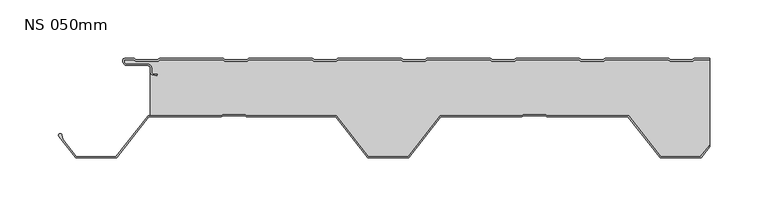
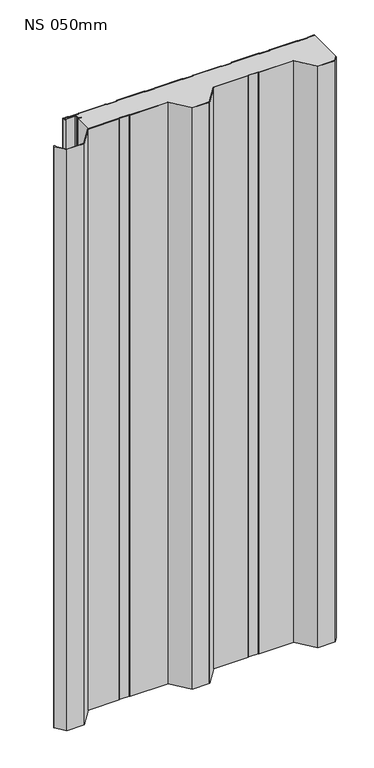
"""IFC4 building model written with IfcOpenShell, lengths in millimetres: plate geometry, KIP-MEX-KC-R19-CP-NS-SL : NS 050mm."""

import ifcopenshell
import ifcopenshell.guid

model = None  # the IFC model being written
_history = None  # IfcOwnerHistory: only IFC2X3 demands one
_inside = {}  # id of a spatial element -> (the spatial element, [elements in it])
_under = {}  # id of a project, library or spatial element -> (it, [spatial elements below it])
_declared = {}  # id of a project -> (the project, [libraries it declares])
_typed = {}  # id of a type object -> (the type object, [elements of that type])
_made_of = {}  # id of a material, layer set ... -> (it, [elements and type objects made of it])


def new_model(schema):
    """Start an empty IFC model of exactly this schema.

    Asked for "IFC4X3", IfcOpenShell would pick the latest addendum, in which some entities
    have other attributes; the version numbers below select the first issue.
    IFC2X3 requires an IfcOwnerHistory on every rooted entity: one is made here for all.
    """
    global model, _history
    if schema == "IFC4X3":
        model = ifcopenshell.file(schema_version=(4, 3, 0, 0))
    else:
        model = ifcopenshell.file(schema=schema)
    _inside.clear()
    _under.clear()
    _declared.clear()
    _typed.clear()
    _made_of.clear()
    _history = None
    if model.schema == "IFC2X3":
        org = make("IfcOrganization", Name="unknown")
        user = make(
            "IfcPersonAndOrganization",
            ThePerson=make("IfcPerson", FamilyName="unknown"),
            TheOrganization=org,
        )
        app = make(
            "IfcApplication",
            ApplicationDeveloper=org,
            Version="unknown",
            ApplicationFullName="unknown",
            ApplicationIdentifier="unknown",
        )
        _history = make(
            "IfcOwnerHistory",
            OwningUser=user,
            OwningApplication=app,
            ChangeAction="ADDED",
            CreationDate=0,
        )
    return model


def make(cls, **values):
    """One entity of the class cls with the attributes given. An attribute that is None is left unset."""
    return model.create_entity(
        cls, **{name: value for name, value in values.items() if value is not None}
    )


def rooted(cls, **values):
    """An entity with a GlobalId (a new one), such as an element, a storey or a relation."""
    return make(cls, GlobalId=ifcopenshell.guid.new(), OwnerHistory=_history, **values)


def si_unit(unit_type, name, prefix=None):
    """IfcSIUnit, for example si_unit("LENGTHUNIT", "METRE", prefix="MILLI")."""
    return make("IfcSIUnit", UnitType=unit_type, Prefix=prefix, Name=name)


def assignment(units):
    """IfcUnitAssignment: the units of a project."""
    return None if units is None else make("IfcUnitAssignment", Units=units)


def point(xyz):
    """IfcCartesianPoint."""
    return None if xyz is None else make("IfcCartesianPoint", Coordinates=xyz)


def direction(xyz):
    """IfcDirection."""
    return None if xyz is None else make("IfcDirection", DirectionRatios=xyz)


def frame(location, z_axis=None, x_axis=None):
    """IfcAxis2Placement3D, a coordinate frame: its origin and axes. An axis left out is left unset."""
    return make(
        "IfcAxis2Placement3D",
        Location=point(location),
        Axis=direction(z_axis),
        RefDirection=direction(x_axis),
    )


def frame_2d(location, x_axis=None):
    """IfcAxis2Placement2D, a coordinate frame in the plane: its origin and x axis."""
    return make(
        "IfcAxis2Placement2D", Location=point(location), RefDirection=direction(x_axis)
    )


def origin():
    """The frame at (0, 0, 0) with its axes left unset."""
    return frame((0.0, 0.0, 0.0))


def origin_with_axes():
    """The frame at (0, 0, 0) with the z axis (0, 0, 1) and the x axis (1, 0, 0) written out."""
    return frame((0.0, 0.0, 0.0), z_axis=(0.0, 0.0, 1.0), x_axis=(1.0, 0.0, 0.0))


def place(relative_to, where):
    """IfcLocalPlacement: puts the frame where relative to a parent placement (None: the world)."""
    return make(
        "IfcLocalPlacement", PlacementRelTo=relative_to, RelativePlacement=where
    )


def context(
    kind, dimensions, precision=None, world=None, true_north=None, identifier=None
):
    """IfcGeometricRepresentationContext, for example the 3D "Model" context."""
    return make(
        "IfcGeometricRepresentationContext",
        ContextIdentifier=identifier,
        ContextType=kind,
        CoordinateSpaceDimension=dimensions,
        Precision=precision,
        WorldCoordinateSystem=world,
        TrueNorth=true_north,
    )


def project(units=None, contexts=None):
    """IfcProject with its units and contexts."""
    return rooted(
        "IfcProject",
        Name="project",
        RepresentationContexts=contexts,
        UnitsInContext=assignment(units),
    )


def spatial(cls, under=None, at=None, **own):
    """A site, building, storey or space (cls), placed at a placement, below another one or the project."""
    s = rooted(cls, ObjectPlacement=at, **own)
    if under is not None:
        _under.setdefault(under.id(), (under, []))[1].append(s)
    return s


def polyline(points):
    """IfcPolyline through the points."""
    return make("IfcPolyline", Points=[point(p) for p in points])


def circle_curve(where, radius):
    """IfcCircle in the frame where."""
    return make("IfcCircle", Position=where, Radius=radius)


def trimmed(basis, trim1, trim2, sense, master):
    """IfcTrimmedCurve: the piece of a basis curve between two trims."""
    return make(
        "IfcTrimmedCurve",
        BasisCurve=basis,
        Trim1=trim1,
        Trim2=trim2,
        SenseAgreement=sense,
        MasterRepresentation=master,
    )


def segment(curve, same_sense, transition):
    """IfcCompositeCurveSegment."""
    return make(
        "IfcCompositeCurveSegment",
        Transition=transition,
        SameSense=same_sense,
        ParentCurve=curve,
    )


def composite_curve(segments, self_intersect=None):
    """IfcCompositeCurve: segments joined end to end."""
    return make("IfcCompositeCurve", Segments=segments, SelfIntersect=self_intersect)


def outline(outer, holes=None, kind="AREA"):
    """IfcArbitraryClosedProfileDef: a profile drawn as a closed curve; with holes, ...WithVoids."""
    if holes is None:
        return make("IfcArbitraryClosedProfileDef", ProfileType=kind, OuterCurve=outer)
    return make(
        "IfcArbitraryProfileDefWithVoids",
        ProfileType=kind,
        OuterCurve=outer,
        InnerCurves=holes,
    )


def extrude(swept, where, along, depth):
    """IfcExtrudedAreaSolid: the profile swept, set in the frame where, extruded along a direction by depth."""
    return make(
        "IfcExtrudedAreaSolid",
        SweptArea=swept,
        Position=where,
        ExtrudedDirection=direction(along),
        Depth=depth,
    )


def shape(context_of_items, identifier, shape_type, items):
    """IfcShapeRepresentation: the items that make up one representation, for example the "Body"."""
    return make(
        "IfcShapeRepresentation",
        ContextOfItems=context_of_items,
        RepresentationIdentifier=identifier,
        RepresentationType=shape_type,
        Items=items,
    )


def source(mapping_origin, context_of_items, identifier, shape_type, items):
    """IfcRepresentationMap: a shape defined once, which mapped items show again and again."""
    return make(
        "IfcRepresentationMap",
        MappingOrigin=mapping_origin,
        MappedRepresentation=shape(context_of_items, identifier, shape_type, items),
    )


def transform(
    local_origin,
    x_axis=None,
    y_axis=None,
    z_axis=None,
    scale=None,
    scale2=None,
    scale3=None,
    uniform=True,
):
    """IfcCartesianTransformationOperator3D, or its non-uniform kind. x_axis, y_axis, z_axis: its Axis1, 2, 3."""
    if uniform:
        return make(
            "IfcCartesianTransformationOperator3D",
            Axis1=direction(x_axis),
            Axis2=direction(y_axis),
            LocalOrigin=point(local_origin),
            Scale=scale,
            Axis3=direction(z_axis),
        )
    return make(
        "IfcCartesianTransformationOperator3DnonUniform",
        Axis1=direction(x_axis),
        Axis2=direction(y_axis),
        LocalOrigin=point(local_origin),
        Scale=scale,
        Axis3=direction(z_axis),
        Scale2=scale2,
        Scale3=scale3,
    )


def mapped(mapping_source, mapping_target):
    """IfcMappedItem: shows the shape of a source again, moved by a transform."""
    return make(
        "IfcMappedItem", MappingSource=mapping_source, MappingTarget=mapping_target
    )


def made_of(thing, what):
    """Note that an element or type object is made of a material, layer set ...; save() writes the relation."""
    if what is not None:
        _made_of.setdefault(what.id(), (what, []))[1].append(thing)
    return thing


def element(
    cls,
    number,
    at=None,
    inside=None,
    cuts=None,
    type_object=None,
    material=None,
    context=None,
    identifier="Body",
    shape_type=None,
    held_by="IfcProductDefinitionShape",
    body=None,
    shapes=None,
    **own,
):
    """One element of the class cls, such as IfcWall. Its Tag is "e" and its number.

    at: its placement. inside: the storey or other place that contains it. cuts: it is an
    opening in that element (IfcRelVoidsElement). A single representation is given by context,
    identifier, shape_type and body (its items); several are given by shapes. held_by: the class
    of the entity that holds the representations. save() writes the other relations.
    """
    e = rooted(cls, Tag="e%d" % number, ObjectPlacement=at, **own)
    if body is not None:
        shapes = [shape(context, identifier, shape_type, body)]
    if shapes is not None:
        e.Representation = make(held_by, Representations=shapes)
    if inside is not None:
        _inside.setdefault(inside.id(), (inside, []))[1].append(e)
    if cuts is not None:
        rooted(
            "IfcRelVoidsElement", RelatingBuildingElement=cuts, RelatedOpeningElement=e
        )
    if type_object is not None:
        _typed.setdefault(type_object.id(), (type_object, []))[1].append(e)
    return made_of(e, material)


def aggregate(whole, parts):
    """IfcRelAggregates: a whole, such as a stair, and the parts it consists of."""
    return rooted("IfcRelAggregates", RelatingObject=whole, RelatedObjects=parts)


def save(model, path):
    """Write the relations noted so far, then the file.

    IfcRelAggregates (storeys below a building ...), IfcRelContainedInSpatialStructure (elements
    in a storey), IfcRelDefinesByType, IfcRelAssociatesMaterial and IfcRelDeclares: one each for
    every whole, place, type object, material and project.
    """
    for whole, parts in _under.values():
        aggregate(whole, parts)
    for where, things in _inside.values():
        rooted(
            "IfcRelContainedInSpatialStructure",
            RelatedElements=things,
            RelatingStructure=where,
        )
    for kind, things in _typed.values():
        rooted("IfcRelDefinesByType", RelatedObjects=things, RelatingType=kind)
    for what, things in _made_of.values():
        rooted("IfcRelAssociatesMaterial", RelatedObjects=things, RelatingMaterial=what)
    for by, libraries in _declared.values():
        rooted("IfcRelDeclares", RelatingContext=by, RelatedDefinitions=libraries)
    model.write(path)


def ns_050mm_445bacdd(model_context):
    return source(origin(), model_context, "Body", "SweptSolid", [
        extrude(outline(composite_curve([segment(polyline([(227.1269078, -0.0163932), (239.9982028, -0.0159212), (239.9982395, -1.0159212), (226.9777933, -1.0163987), (225.5922043, -2.2166802), (206.217038, -2.2173906), (204.8313611, -1.0172107), (150.7779458, -1.0191927), (149.3923568, -2.2194742), (130.0171905, -2.2201847), (128.6315135, -1.0200048), (74.5780982, -1.0219868), (73.1925093, -2.2222683), (53.8173429, -2.2229787), (52.431666, -1.0227988), (-1.6217493, -1.0247808), (-3.0073383, -2.2250623), (-22.3825046, -2.2257728), (-23.7681816, -1.0255929), (-77.8215969, -1.0275749), (-79.2071858, -2.2278564), (-98.5823521, -2.2285668), (-99.9680291, -1.0283869), (-154.0214444, -1.0303689), (-155.4070334, -2.2306504), (-174.7821997, -2.2313609), (-176.1678767, -1.031181), (-230.221292, -1.033163), (-231.6068809, -2.2334445), (-250.9820472, -2.2341549), (-252.367737, -1.033964), (-260.8692984, -1.0342757), (-260.8692434, -2.5341955)]), True, "CONTINUOUS"), segment(trimmed(circle_curve(frame_2d((-258.3693392, -2.5341038)), 2.4999043), [point((-260.8692434, -2.5341955))], [point((-258.3692475, -5.0340081))], True, "CARTESIAN"), True, "CONTINUOUS"), segment(polyline([(-258.3692475, -5.0340081), (-240.3686625, -5.0333481)]), True, "CONTINUOUS"), segment(trimmed(circle_curve(frame_2d((-240.3685525, -8.033707)), 3.0003589), [point((-240.3686625, -5.0333481))], [point((-237.3681944, -8.031496))], False, "CARTESIAN"), True, "CONTINUOUS"), segment(polyline([(-237.3681944, -8.031496), (-237.3680625, -11.6278092)]), True, "CONTINUOUS"), segment(trimmed(circle_curve(frame_2d((-235.8672872, -11.6277542)), 1.5007756), [point((-237.3680625, -11.6278092))], [point((-236.1267145, -13.1059371))], True, "CARTESIAN"), True, "CONTINUOUS"), segment(polyline([(-236.1267145, -13.1059371), (-232.5843569, -13.7276357), (-232.7572191, -14.7125821), (-236.2995774, -14.0908834)]), True, "CONTINUOUS"), segment(trimmed(circle_curve(frame_2d((-235.8672879, -11.6277538)), 2.5007763), [point((-236.2995774, -14.0908834))], [point((-238.3680636, -11.62932))], False, "CARTESIAN"), True, "CONTINUOUS"), segment(polyline([(-238.3680636, -11.62932), (-238.3681955, -8.0321372)]), True, "CONTINUOUS"), segment(trimmed(circle_curve(frame_2d((-240.3685511, -8.0337097)), 2.0003562), [point((-238.3681955, -8.0321372))], [point((-240.3686244, -6.0333536))], True, "CARTESIAN"), True, "CONTINUOUS"), segment(polyline([(-240.3686244, -6.0333536), (-258.3692219, -6.0340136)]), True, "CONTINUOUS"), segment(trimmed(circle_curve(frame_2d((-258.3693502, -2.5340983)), 3.4999153), [point((-258.3692219, -6.0340136))], [point((-261.8692656, -2.5342266))], False, "CARTESIAN"), True, "CONTINUOUS"), segment(polyline([(-261.8692656, -2.5342266), (-261.8693022, -1.5343029)]), True, "CONTINUOUS"), segment(trimmed(circle_curve(frame_2d((-260.3693227, -1.5342479)), 1.4999795), [point((-261.8693022, -1.5343029))], [point((-260.3693777, -0.0342684))], False, "CARTESIAN"), True, "CONTINUOUS"), segment(polyline([(-260.3693777, -0.0342684), (-252.516912, -0.0339805)]), True, "CONTINUOUS"), segment(trimmed(circle_curve(frame_2d((-252.5168607, -1.4339777)), 1.3999972), [point((-252.516912, -0.0339805))], [point((-251.6002826, -0.3757354))], False, "CARTESIAN"), True, "CONTINUOUS"), segment(polyline([(-251.6002826, -0.3757354), (-250.6092035, -1.2341413), (-231.979798, -1.2334582), (-230.9887819, -0.3749796)]), True, "CONTINUOUS"), segment(trimmed(circle_curve(frame_2d((-230.0721262, -1.4331547)), 1.3999972), [point((-230.9887819, -0.3749796))], [point((-230.0721775, -0.0331575))], False, "CARTESIAN"), True, "CONTINUOUS"), segment(polyline([(-230.0721775, -0.0331575), (-176.3170645, -0.0311865)]), True, "CONTINUOUS"), segment(trimmed(circle_curve(frame_2d((-176.3170131, -1.4311837)), 1.3999972), [point((-176.3170645, -0.0311865))], [point((-175.4004351, -0.3729413))], False, "CARTESIAN"), True, "CONTINUOUS"), segment(polyline([(-175.4004351, -0.3729413), (-174.4093559, -1.2313472), (-155.7799505, -1.2306641), (-154.7889343, -0.3721856)]), True, "CONTINUOUS"), segment(trimmed(circle_curve(frame_2d((-153.8722786, -1.4303607)), 1.3999972), [point((-154.7889343, -0.3721856))], [point((-153.87233, -0.0303635))], False, "CARTESIAN"), True, "CONTINUOUS"), segment(polyline([(-153.87233, -0.0303635), (-100.1172169, -0.0283924)]), True, "CONTINUOUS"), segment(trimmed(circle_curve(frame_2d((-100.1171656, -1.4283896)), 1.3999972), [point((-100.1172169, -0.0283924))], [point((-99.2005875, -0.3701473))], False, "CARTESIAN"), True, "CONTINUOUS"), segment(polyline([(-99.2005875, -0.3701473), (-98.2095084, -1.2285532), (-79.5801029, -1.2278701), (-78.5890868, -0.3693915)]), True, "CONTINUOUS"), segment(trimmed(circle_curve(frame_2d((-77.6724311, -1.4275666)), 1.3999972), [point((-78.5890868, -0.3693915))], [point((-77.6724824, -0.0275694))], False, "CARTESIAN"), True, "CONTINUOUS"), segment(polyline([(-77.6724824, -0.0275694), (-23.9173694, -0.0255984)]), True, "CONTINUOUS"), segment(trimmed(circle_curve(frame_2d((-23.917318, -1.4255955)), 1.3999972), [point((-23.9173694, -0.0255984))], [point((-23.00074, -0.3673532))], False, "CARTESIAN"), True, "CONTINUOUS"), segment(polyline([(-23.00074, -0.3673532), (-22.0096608, -1.2257591), (-3.3802554, -1.225076), (-2.3892392, -0.3665975)]), True, "CONTINUOUS"), segment(trimmed(circle_curve(frame_2d((-1.4725835, -1.4247726)), 1.3999972), [point((-2.3892392, -0.3665975))], [point((-1.4726349, -0.0247754))], False, "CARTESIAN"), True, "CONTINUOUS"), segment(polyline([(-1.4726349, -0.0247754), (52.2824782, -0.0228043)]), True, "CONTINUOUS"), segment(trimmed(circle_curve(frame_2d((52.2825295, -1.4228015)), 1.3999972), [point((52.2824782, -0.0228043))], [point((53.1991076, -0.3645592))], False, "CARTESIAN"), True, "CONTINUOUS"), segment(polyline([(53.1991076, -0.3645592), (54.1901867, -1.2229651), (72.8195921, -1.222282), (73.8106083, -0.3638034)]), True, "CONTINUOUS"), segment(trimmed(circle_curve(frame_2d((74.727264, -1.4219785)), 1.3999972), [point((73.8106083, -0.3638034))], [point((74.7272127, -0.0219813))], False, "CARTESIAN"), True, "CONTINUOUS"), segment(polyline([(74.7272127, -0.0219813), (128.4823257, -0.0200102)]), True, "CONTINUOUS"), segment(trimmed(circle_curve(frame_2d((128.4823771, -1.4200074)), 1.3999972), [point((128.4823257, -0.0200102))], [point((129.3989551, -0.3617651))], False, "CARTESIAN"), True, "CONTINUOUS"), segment(polyline([(129.3989551, -0.3617651), (130.3900343, -1.220171), (149.0194397, -1.2194879), (150.0104559, -0.3610094)]), True, "CONTINUOUS"), segment(trimmed(circle_curve(frame_2d((150.9271116, -1.4191845)), 1.3999972), [point((150.0104559, -0.3610094))], [point((150.9270602, -0.0191873))], False, "CARTESIAN"), True, "CONTINUOUS"), segment(polyline([(150.9270602, -0.0191873), (204.6821733, -0.0172162)]), True, "CONTINUOUS"), segment(trimmed(circle_curve(frame_2d((204.6822246, -1.4172134)), 1.3999972), [point((204.6821733, -0.0172162))], [point((205.5988027, -0.3589711))], False, "CARTESIAN"), True, "CONTINUOUS"), segment(polyline([(205.5988027, -0.3589711), (206.5898818, -1.2173769), (225.2192872, -1.2166939), (226.2103034, -0.3582153)]), True, "CONTINUOUS"), segment(trimmed(circle_curve(frame_2d((227.1269591, -1.4163904)), 1.3999972), [point((226.2103034, -0.3582153))], [point((227.1269078, -0.0163932))], False, "CARTESIAN"), True, "CONTINUOUS")], self_intersect=False)), origin_with_axes(), (0.0, 0.0, 1.0), 1224.3718713),
        extrude(outline(composite_curve([segment(polyline([(-314.0514565, -65.3743988), (-313.3501987, -69.3468053), (-301.8079514, -84.0358259), (-267.7799839, -84.0345782), (-240.2812374, -49.0335319), (-177.8440581, -49.0312425), (-176.4298117, -48.0311895), (-157.22229, -48.0304852), (-155.8079703, -49.0304345), (-79.3089933, -49.0276295), (-51.8076802, -84.0266591), (-17.7797127, -84.0254113), (9.7190337, -49.024365), (79.1871118, -49.0218178), (80.6013583, -48.0217649), (99.8088799, -48.0210606), (101.2231997, -49.0210098), (170.6912778, -49.0184626), (198.192591, -84.0174922), (232.2205584, -84.0162445), (240.0009198, -74.1132189), (240.0009791, -75.7318093), (232.7066303, -85.0162266), (197.7065924, -85.01751), (170.2052792, -50.0184804), (100.9054116, -50.0210215), (99.4910918, -49.0210722), (80.9192197, -49.0217532), (79.5049733, -50.0218062), (10.2051057, -50.0243472), (-17.2936408, -85.0253935), (-52.2936788, -85.0266769), (-79.7949919, -50.0276473), (-156.1257584, -50.0304461), (-157.5400781, -49.0304969), (-176.1119503, -49.0311779), (-177.5261967, -50.0312308), (-239.7951655, -50.0335141), (-267.2939119, -85.0345604), (-302.2939499, -85.0358437), (-316.6619777, -66.7506476)]), True, "CONTINUOUS"), segment(trimmed(circle_curve(frame_2d((-315.482533, -65.8238709)), 1.5000016), [point((-316.6619777, -66.7506476))], [point((-314.0514565, -65.3743988))], False, "CARTESIAN"), True, "CONTINUOUS")], self_intersect=False)), origin_with_axes(), (0.0, 0.0, 1.0), 1224.3718713),
        extrude(outline(composite_curve([segment(polyline([(-238.3666921, -49.0334617), (-238.3680636, -11.6293311)]), True, "CONTINUOUS"), segment(trimmed(circle_curve(frame_2d((-235.8672879, -11.6277649)), 2.5007762), [point((-238.3680636, -11.6293311))], [point((-236.2995774, -14.0908945))], True, "CARTESIAN"), True, "CONTINUOUS"), segment(polyline([(-236.2995774, -14.0908945), (-232.7572191, -14.7125932), (-232.5843569, -13.7276467), (-236.1267144, -13.1059481)]), True, "CONTINUOUS"), segment(trimmed(circle_curve(frame_2d((-235.8672871, -11.6277653)), 1.5007755), [point((-236.1267144, -13.1059481))], [point((-237.3680626, -11.6278203))], False, "CARTESIAN"), True, "CONTINUOUS"), segment(polyline([(-237.3680626, -11.6278203), (-237.3681945, -8.031507)]), True, "CONTINUOUS"), segment(trimmed(circle_curve(frame_2d((-240.3685525, -8.033718)), 3.0003589), [point((-237.3681945, -8.031507))], [point((-240.3686626, -5.0333592))], True, "CARTESIAN"), True, "CONTINUOUS"), segment(polyline([(-240.3686626, -5.0333592), (-258.3692475, -5.0340192)]), True, "CONTINUOUS"), segment(trimmed(circle_curve(frame_2d((-258.3693392, -2.5341149)), 2.4999043), [point((-258.3692475, -5.0340192))], [point((-260.8692435, -2.5342066))], False, "CARTESIAN"), True, "CONTINUOUS"), segment(polyline([(-260.8692435, -2.5342066), (-260.8692985, -1.0342784), (-252.3677338, -1.0339667), (-250.9820472, -2.2341549), (-231.6068809, -2.2334445), (-230.2212919, -1.033163), (-176.1678766, -1.031181), (-174.7821996, -2.2313609), (-155.4070333, -2.2306504), (-154.0214444, -1.0303689), (-99.9680291, -1.0283869), (-98.5823521, -2.2285668), (-79.2071858, -2.2278564), (-77.8215968, -1.0275749), (-23.7681815, -1.0255929), (-22.3825045, -2.2257728), (-3.0073382, -2.2250623), (-1.6217493, -1.0247808), (52.431666, -1.0227988), (53.817343, -2.2229787), (73.1925093, -2.2222683), (74.5780983, -1.0219868), (128.6315136, -1.0200048), (130.0171905, -2.2201847), (149.3923568, -2.2194742), (150.7779458, -1.0191927), (204.8313611, -1.0172107), (206.2170381, -2.2173906), (225.5922044, -2.2166802), (226.9777933, -1.0163987), (239.9982395, -1.0159212), (240.0009198, -74.1132189), (232.2205584, -84.0162445), (198.192591, -84.0174922), (170.6912778, -49.0184626), (101.2231997, -49.0210098), (99.8088799, -48.0210606), (80.6013583, -48.0217649), (79.1871118, -49.0218178), (9.7190337, -49.024365), (-17.7797127, -84.0254113), (-51.8076802, -84.0266591), (-79.3089933, -49.0276295), (-155.8079703, -49.0304345), (-157.22229, -48.0304852), (-176.4298117, -48.0311895), (-177.8440581, -49.0312425), (-238.3666921, -49.0334617)]), True, "CONTINUOUS")], self_intersect=False)), origin_with_axes(), (0.0, 0.0, 1.0), 1224.3718713),
    ])


if __name__ == "__main__":
    model = new_model("IFC4")
    model_context = context("Model", 3, world=origin())
    ifc_project = project(units=[si_unit("LENGTHUNIT", "METRE", prefix="MILLI")], contexts=[model_context])
    site = spatial("IfcSite", under=ifc_project)
    building = spatial("IfcBuilding", under=site)
    placement = place(None, origin())
    ns_050mm_shape = ns_050mm_445bacdd(model_context)
    element("IfcPlate", 1, ObjectType="KIP-MEX-KC-R19-CP-NS-SL : NS 050mm", at=placement, inside=building, context=model_context, shape_type="MappedRepresentation", body=[
        mapped(ns_050mm_shape, transform((0.0, 0.0, 0.0), x_axis=(1.0, 0.0, 0.0), y_axis=(0.0, 1.0, 0.0), z_axis=(0.0, 0.0, 1.0))),
    ])
    save(model, "model.ifc")
